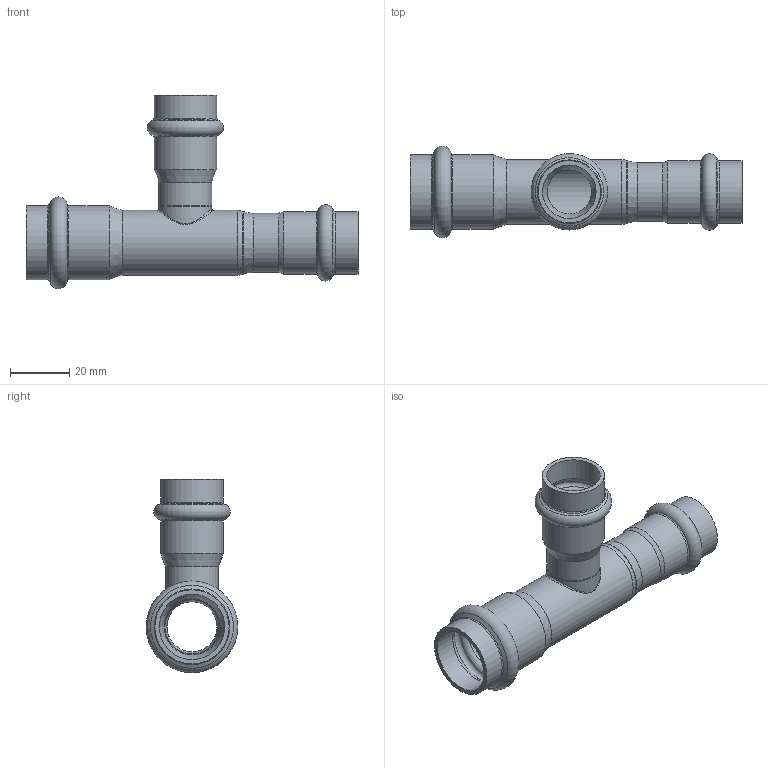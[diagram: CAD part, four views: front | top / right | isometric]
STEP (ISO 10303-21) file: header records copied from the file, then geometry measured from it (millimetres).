
FILE_DESCRIPTION((''),'2;1');
FILE_NAME('G:\Nirosan-Schmiedefeld\Technics\CAD\001 Serie 9.000\022\69130221818H(0).stp','2017-07-13T14:37:23',('herberg'),(''),'Autodesk Inventor 2009','Autodesk Inventor 2009','');
FILE_SCHEMA(('AUTOMOTIVE_DESIGN { 1 0 10303 214 1 1 1 1 }'));
Length unit declared in the file: millimetre
Products named in the file (3): 69130221818H(0); 69LM221818P_S3(0); 69HM18P(1)
Assembly tree (2 placements, depth 2):
  69130221818H(0)
    69LM221818P_S3(0)
    69HM18P(1)
Bounding box: 112.5 x 31.09 x 65.55 mm (x, y, z)
Volume: 15525.8 mm3; surface area: 21147.9 mm2
Topology: 2 solids, 2 shells, 63 faces, 130 edges, 72 vertices
Faces by surface type: cylinder 20, bspline 15, cone 14, torus 9, plane 5
Full cylindrical faces by diameter (mm): 15 x2, 17 x1, 18 x2, 18.15 x4, 19 x1, 20 x1, 21.15 x4, 22 x1, 22.15 x2, 25.15 x2
Entity records: 2918 total; most frequent: CARTESIAN_POINT 1809, DIRECTION 228, ORIENTED_EDGE 132, EDGE_LOOP 126, AXIS2_PLACEMENT_3D 114, EDGE_CURVE 66, VERTEX_POINT 64, FACE_OUTER_BOUND 63
